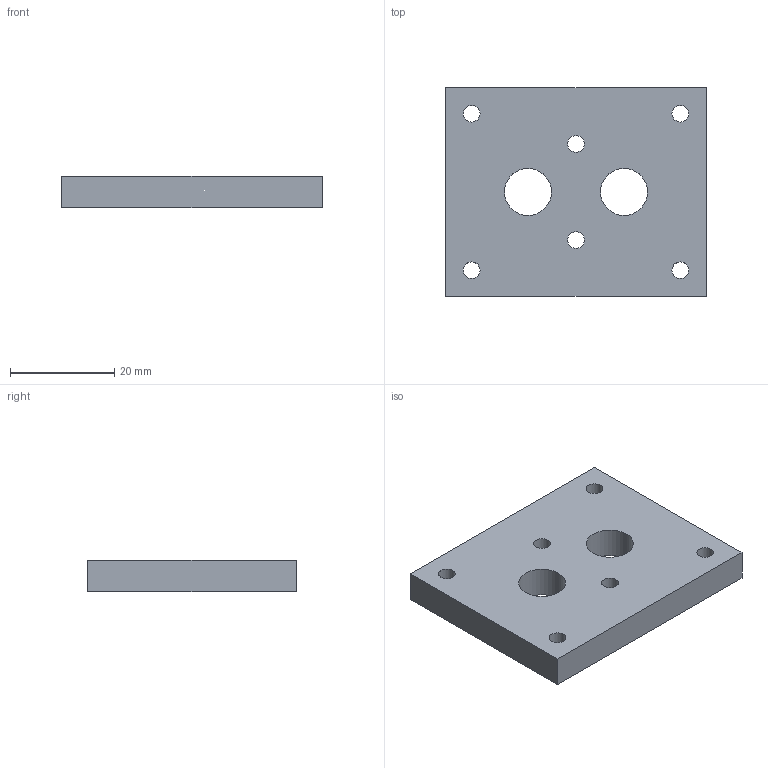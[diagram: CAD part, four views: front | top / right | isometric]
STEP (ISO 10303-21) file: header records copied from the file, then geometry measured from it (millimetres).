
FILE_DESCRIPTION(('Open CASCADE Model'),'2;1');
FILE_NAME('Open CASCADE Shape Model','2026-10-05T13:12:06',('Author'),( 'Open CASCADE'),'Open CASCADE STEP processor 7.8','Open CASCADE 7.8' ,'Unknown');
FILE_SCHEMA(('AUTOMOTIVE_DESIGN { 1 0 10303 214 1 1 1 1 }'));
Length unit declared in the file: millimetre
Products named in the file (1): Open CASCADE STEP translator 7.8 3
Bounding box: 50 x 40 x 6 mm (x, y, z)
Volume: 10947.1 mm3; surface area: 5430.2 mm2
Topology: 1 solids, 1 shells, 14 faces, 36 edges, 24 vertices
Faces by surface type: cylinder 8, plane 6
Full cylindrical faces by diameter (mm): 3.2 x6, 9 x2
Entity records: 946 total; most frequent: DIRECTION 154, CARTESIAN_POINT 147, LINE 76, VECTOR 76, ORIENTED_EDGE 72, PCURVE 72, DEFINITIONAL_REPRESENTATION 72, EDGE_CURVE 36
